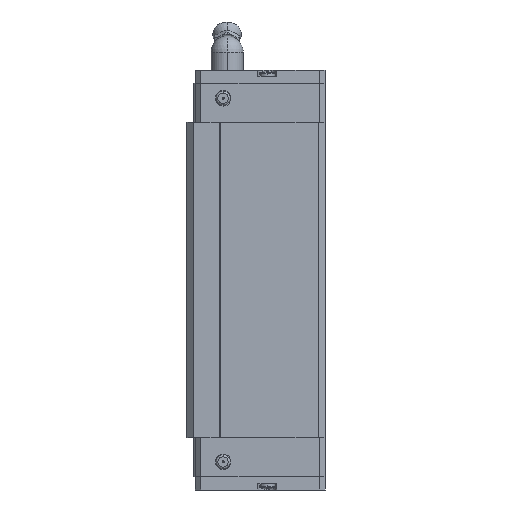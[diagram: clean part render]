
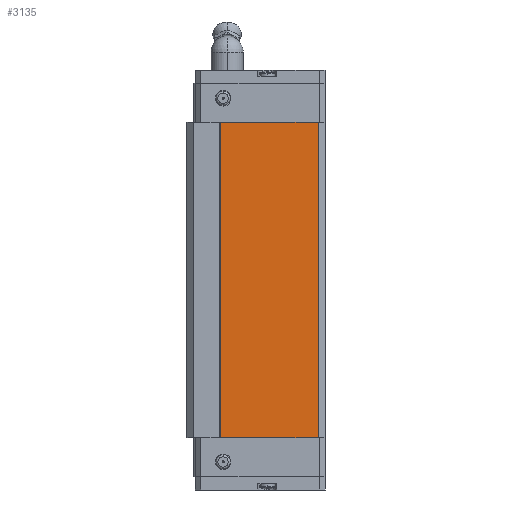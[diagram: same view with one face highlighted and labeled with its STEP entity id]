
A CAD part, left-side view. The second image highlights one B-rep face of the part: STEP entity #3135.
In plain terms, the highlighted planar face has unit normal (-1, 0, 0).
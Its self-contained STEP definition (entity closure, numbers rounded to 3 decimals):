
#379 = CARTESIAN_POINT ( 'NONE',  ( -23.629, 1.72, 39.3 ) ) ;
#1158 = DIRECTION ( 'NONE',  ( 0., 0., -1. ) ) ;
#1499 = CARTESIAN_POINT ( 'NONE',  ( -23.629, 26.029, 39.3 ) ) ;
#1533 = VECTOR ( 'NONE', #9847, 1000. ) ;
#1607 = VECTOR ( 'NONE', #13798, 1000. ) ;
#1962 = PLANE ( 'NONE',  #10622 ) ;
#2445 = LINE ( 'NONE', #11040, #13790 ) ;
#2848 = EDGE_CURVE ( 'NONE', #11885, #10379, #9216, .T. ) ;
#3058 = DIRECTION ( 'NONE',  ( 0., 1., 0. ) ) ;
#3135 = ADVANCED_FACE ( 'NONE', ( #8674 ), #1962, .F. ) ;
#5199 = LINE ( 'NONE', #12678, #1607 ) ;
#5872 = CARTESIAN_POINT ( 'NONE',  ( -23.629, 26.029, 39.3 ) ) ;
#5974 = VERTEX_POINT ( 'NONE', #379 ) ;
#6091 = ORIENTED_EDGE ( 'NONE', *, *, #13085, .F. ) ;
#7228 = EDGE_CURVE ( 'NONE', #5974, #8198, #2445, .T. ) ;
#8198 = VERTEX_POINT ( 'NONE', #10478 ) ;
#8504 = CARTESIAN_POINT ( 'NONE',  ( -23.629, 26.029, 39.3 ) ) ;
#8674 = FACE_OUTER_BOUND ( 'NONE', #13983, .T. ) ;
#9216 = LINE ( 'NONE', #5872, #11746 ) ;
#9386 = ORIENTED_EDGE ( 'NONE', *, *, #7228, .F. ) ;
#9601 = EDGE_CURVE ( 'NONE', #10379, #8198, #10311, .T. ) ;
#9664 = DIRECTION ( 'NONE',  ( 1., 0., 0. ) ) ;
#9847 = DIRECTION ( 'NONE',  ( 0., -1., 0. ) ) ;
#10258 = DIRECTION ( 'NONE',  ( 0., 0., -1. ) ) ;
#10311 = LINE ( 'NONE', #10876, #1533 ) ;
#10379 = VERTEX_POINT ( 'NONE', #12408 ) ;
#10478 = CARTESIAN_POINT ( 'NONE',  ( -23.629, 1.72, -39.3 ) ) ;
#10622 = AXIS2_PLACEMENT_3D ( 'NONE', #8504, #9664, #3058 ) ;
#10876 = CARTESIAN_POINT ( 'NONE',  ( -23.629, 26.029, -39.3 ) ) ;
#11040 = CARTESIAN_POINT ( 'NONE',  ( -23.629, 1.72, 39.3 ) ) ;
#11746 = VECTOR ( 'NONE', #10258, 1000. ) ;
#11885 = VERTEX_POINT ( 'NONE', #1499 ) ;
#12281 = ORIENTED_EDGE ( 'NONE', *, *, #9601, .T. ) ;
#12408 = CARTESIAN_POINT ( 'NONE',  ( -23.629, 26.029, -39.3 ) ) ;
#12678 = CARTESIAN_POINT ( 'NONE',  ( -23.629, 26.029, 39.3 ) ) ;
#12963 = ORIENTED_EDGE ( 'NONE', *, *, #2848, .T. ) ;
#13085 = EDGE_CURVE ( 'NONE', #11885, #5974, #5199, .T. ) ;
#13790 = VECTOR ( 'NONE', #1158, 1000. ) ;
#13798 = DIRECTION ( 'NONE',  ( 0., -1., 0. ) ) ;
#13983 = EDGE_LOOP ( 'NONE', ( #12963, #12281, #9386, #6091 ) ) ;
